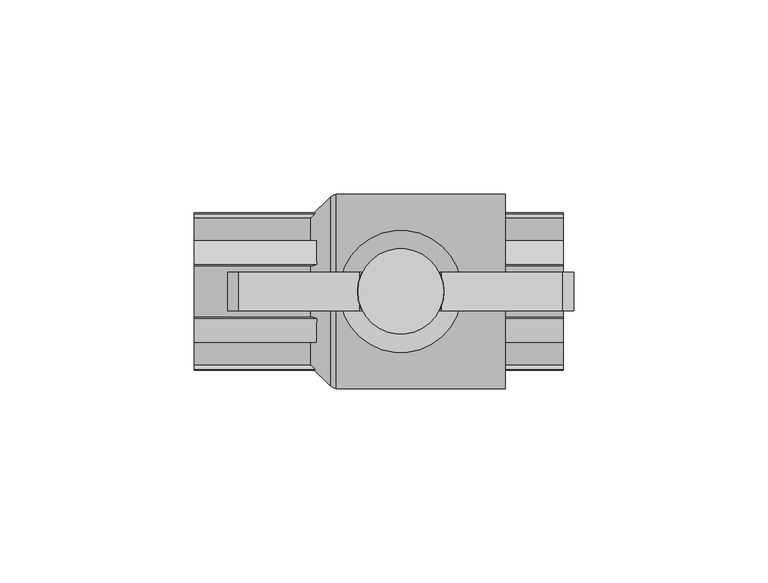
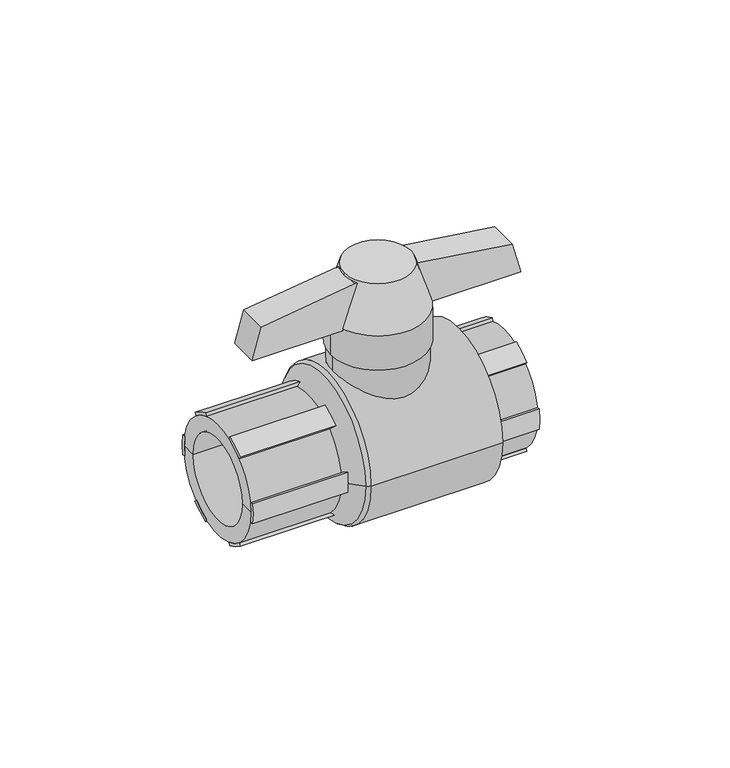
"""IFC4 building model written with IfcOpenShell, lengths in millimetres: valve geometry, Valvula Bola_Lubrizol_CPVC_FlowGuard_MX 25mm : Valvula Bola_Lubrizol_CPVC_FlowGuard_MX 25mm."""

import ifcopenshell
import ifcopenshell.guid

model = None  # the IFC model being written
_history = None  # IfcOwnerHistory: only IFC2X3 demands one
_inside = {}  # id of a spatial element -> (the spatial element, [elements in it])
_under = {}  # id of a project, library or spatial element -> (it, [spatial elements below it])
_declared = {}  # id of a project -> (the project, [libraries it declares])
_typed = {}  # id of a type object -> (the type object, [elements of that type])
_made_of = {}  # id of a material, layer set ... -> (it, [elements and type objects made of it])


def new_model(schema):
    """Start an empty IFC model of exactly this schema.

    Asked for "IFC4X3", IfcOpenShell would pick the latest addendum, in which some entities
    have other attributes; the version numbers below select the first issue.
    IFC2X3 requires an IfcOwnerHistory on every rooted entity: one is made here for all.
    """
    global model, _history
    if schema == "IFC4X3":
        model = ifcopenshell.file(schema_version=(4, 3, 0, 0))
    else:
        model = ifcopenshell.file(schema=schema)
    _inside.clear()
    _under.clear()
    _declared.clear()
    _typed.clear()
    _made_of.clear()
    _history = None
    if model.schema == "IFC2X3":
        org = make("IfcOrganization", Name="unknown")
        user = make(
            "IfcPersonAndOrganization",
            ThePerson=make("IfcPerson", FamilyName="unknown"),
            TheOrganization=org,
        )
        app = make(
            "IfcApplication",
            ApplicationDeveloper=org,
            Version="unknown",
            ApplicationFullName="unknown",
            ApplicationIdentifier="unknown",
        )
        _history = make(
            "IfcOwnerHistory",
            OwningUser=user,
            OwningApplication=app,
            ChangeAction="ADDED",
            CreationDate=0,
        )
    return model


def make(cls, **values):
    """One entity of the class cls with the attributes given. An attribute that is None is left unset."""
    return model.create_entity(
        cls, **{name: value for name, value in values.items() if value is not None}
    )


def rooted(cls, **values):
    """An entity with a GlobalId (a new one), such as an element, a storey or a relation."""
    return make(cls, GlobalId=ifcopenshell.guid.new(), OwnerHistory=_history, **values)


def si_unit(unit_type, name, prefix=None):
    """IfcSIUnit, for example si_unit("LENGTHUNIT", "METRE", prefix="MILLI")."""
    return make("IfcSIUnit", UnitType=unit_type, Prefix=prefix, Name=name)


def assignment(units):
    """IfcUnitAssignment: the units of a project."""
    return None if units is None else make("IfcUnitAssignment", Units=units)


def point(xyz):
    """IfcCartesianPoint."""
    return None if xyz is None else make("IfcCartesianPoint", Coordinates=xyz)


def direction(xyz):
    """IfcDirection."""
    return None if xyz is None else make("IfcDirection", DirectionRatios=xyz)


def frame(location, z_axis=None, x_axis=None):
    """IfcAxis2Placement3D, a coordinate frame: its origin and axes. An axis left out is left unset."""
    return make(
        "IfcAxis2Placement3D",
        Location=point(location),
        Axis=direction(z_axis),
        RefDirection=direction(x_axis),
    )


def frame_2d(location, x_axis=None):
    """IfcAxis2Placement2D, a coordinate frame in the plane: its origin and x axis."""
    return make(
        "IfcAxis2Placement2D", Location=point(location), RefDirection=direction(x_axis)
    )


def origin():
    """The frame at (0, 0, 0) with its axes left unset."""
    return frame((0.0, 0.0, 0.0))


def origin_2d():
    """The frame at (0, 0) in the plane with its x axis left unset."""
    return frame_2d((0.0, 0.0))


def place(relative_to, where):
    """IfcLocalPlacement: puts the frame where relative to a parent placement (None: the world)."""
    return make(
        "IfcLocalPlacement", PlacementRelTo=relative_to, RelativePlacement=where
    )


def context(
    kind, dimensions, precision=None, world=None, true_north=None, identifier=None
):
    """IfcGeometricRepresentationContext, for example the 3D "Model" context."""
    return make(
        "IfcGeometricRepresentationContext",
        ContextIdentifier=identifier,
        ContextType=kind,
        CoordinateSpaceDimension=dimensions,
        Precision=precision,
        WorldCoordinateSystem=world,
        TrueNorth=true_north,
    )


def project(units=None, contexts=None):
    """IfcProject with its units and contexts."""
    return rooted(
        "IfcProject",
        Name="project",
        RepresentationContexts=contexts,
        UnitsInContext=assignment(units),
    )


def spatial(cls, under=None, at=None, **own):
    """A site, building, storey or space (cls), placed at a placement, below another one or the project."""
    s = rooted(cls, ObjectPlacement=at, **own)
    if under is not None:
        _under.setdefault(under.id(), (under, []))[1].append(s)
    return s


def polyline(points):
    """IfcPolyline through the points."""
    return make("IfcPolyline", Points=[point(p) for p in points])


def circle_curve(where, radius):
    """IfcCircle in the frame where."""
    return make("IfcCircle", Position=where, Radius=radius)


def ellipse_curve(where, semi_axis1, semi_axis2):
    """IfcEllipse in the frame where."""
    return make(
        "IfcEllipse", Position=where, SemiAxis1=semi_axis1, SemiAxis2=semi_axis2
    )


def trimmed(basis, trim1, trim2, sense, master):
    """IfcTrimmedCurve: the piece of a basis curve between two trims."""
    return make(
        "IfcTrimmedCurve",
        BasisCurve=basis,
        Trim1=trim1,
        Trim2=trim2,
        SenseAgreement=sense,
        MasterRepresentation=master,
    )


def segment(curve, same_sense, transition):
    """IfcCompositeCurveSegment."""
    return make(
        "IfcCompositeCurveSegment",
        Transition=transition,
        SameSense=same_sense,
        ParentCurve=curve,
    )


def composite_curve(segments, self_intersect=None):
    """IfcCompositeCurve: segments joined end to end."""
    return make("IfcCompositeCurve", Segments=segments, SelfIntersect=self_intersect)


def outline(outer, holes=None, kind="AREA"):
    """IfcArbitraryClosedProfileDef: a profile drawn as a closed curve; with holes, ...WithVoids."""
    if holes is None:
        return make("IfcArbitraryClosedProfileDef", ProfileType=kind, OuterCurve=outer)
    return make(
        "IfcArbitraryProfileDefWithVoids",
        ProfileType=kind,
        OuterCurve=outer,
        InnerCurves=holes,
    )


def extrude(swept, where, along, depth):
    """IfcExtrudedAreaSolid: the profile swept, set in the frame where, extruded along a direction by depth."""
    return make(
        "IfcExtrudedAreaSolid",
        SweptArea=swept,
        Position=where,
        ExtrudedDirection=direction(along),
        Depth=depth,
    )


def shape(context_of_items, identifier, shape_type, items):
    """IfcShapeRepresentation: the items that make up one representation, for example the "Body"."""
    return make(
        "IfcShapeRepresentation",
        ContextOfItems=context_of_items,
        RepresentationIdentifier=identifier,
        RepresentationType=shape_type,
        Items=items,
    )


def source(mapping_origin, context_of_items, identifier, shape_type, items):
    """IfcRepresentationMap: a shape defined once, which mapped items show again and again."""
    return make(
        "IfcRepresentationMap",
        MappingOrigin=mapping_origin,
        MappedRepresentation=shape(context_of_items, identifier, shape_type, items),
    )


def transform(
    local_origin,
    x_axis=None,
    y_axis=None,
    z_axis=None,
    scale=None,
    scale2=None,
    scale3=None,
    uniform=True,
):
    """IfcCartesianTransformationOperator3D, or its non-uniform kind. x_axis, y_axis, z_axis: its Axis1, 2, 3."""
    if uniform:
        return make(
            "IfcCartesianTransformationOperator3D",
            Axis1=direction(x_axis),
            Axis2=direction(y_axis),
            LocalOrigin=point(local_origin),
            Scale=scale,
            Axis3=direction(z_axis),
        )
    return make(
        "IfcCartesianTransformationOperator3DnonUniform",
        Axis1=direction(x_axis),
        Axis2=direction(y_axis),
        LocalOrigin=point(local_origin),
        Scale=scale,
        Axis3=direction(z_axis),
        Scale2=scale2,
        Scale3=scale3,
    )


def mapped(mapping_source, mapping_target):
    """IfcMappedItem: shows the shape of a source again, moved by a transform."""
    return make(
        "IfcMappedItem", MappingSource=mapping_source, MappingTarget=mapping_target
    )


def made_of(thing, what):
    """Note that an element or type object is made of a material, layer set ...; save() writes the relation."""
    if what is not None:
        _made_of.setdefault(what.id(), (what, []))[1].append(thing)
    return thing


def element(
    cls,
    number,
    at=None,
    inside=None,
    cuts=None,
    type_object=None,
    material=None,
    context=None,
    identifier="Body",
    shape_type=None,
    held_by="IfcProductDefinitionShape",
    body=None,
    shapes=None,
    **own,
):
    """One element of the class cls, such as IfcWall. Its Tag is "e" and its number.

    at: its placement. inside: the storey or other place that contains it. cuts: it is an
    opening in that element (IfcRelVoidsElement). A single representation is given by context,
    identifier, shape_type and body (its items); several are given by shapes. held_by: the class
    of the entity that holds the representations. save() writes the other relations.
    """
    e = rooted(cls, Tag="e%d" % number, ObjectPlacement=at, **own)
    if body is not None:
        shapes = [shape(context, identifier, shape_type, body)]
    if shapes is not None:
        e.Representation = make(held_by, Representations=shapes)
    if inside is not None:
        _inside.setdefault(inside.id(), (inside, []))[1].append(e)
    if cuts is not None:
        rooted(
            "IfcRelVoidsElement", RelatingBuildingElement=cuts, RelatedOpeningElement=e
        )
    if type_object is not None:
        _typed.setdefault(type_object.id(), (type_object, []))[1].append(e)
    return made_of(e, material)


def aggregate(whole, parts):
    """IfcRelAggregates: a whole, such as a stair, and the parts it consists of."""
    return rooted("IfcRelAggregates", RelatingObject=whole, RelatedObjects=parts)


def save(model, path):
    """Write the relations noted so far, then the file.

    IfcRelAggregates (storeys below a building ...), IfcRelContainedInSpatialStructure (elements
    in a storey), IfcRelDefinesByType, IfcRelAssociatesMaterial and IfcRelDeclares: one each for
    every whole, place, type object, material and project.
    """
    for whole, parts in _under.values():
        aggregate(whole, parts)
    for where, things in _inside.values():
        rooted(
            "IfcRelContainedInSpatialStructure",
            RelatedElements=things,
            RelatingStructure=where,
        )
    for kind, things in _typed.values():
        rooted("IfcRelDefinesByType", RelatedObjects=things, RelatingType=kind)
    for what, things in _made_of.values():
        rooted("IfcRelAssociatesMaterial", RelatedObjects=things, RelatingMaterial=what)
    for by, libraries in _declared.values():
        rooted("IfcRelDeclares", RelatingContext=by, RelatedDefinitions=libraries)
    model.write(path)


def plane_surface(at):
    """IfcPlane: the flat surface through the origin of the frame at, square to its z axis."""
    return make("IfcPlane", Position=at)


def cylinder_surface(at, radius):
    """IfcCylindricalSurface: all points at the distance radius from the z axis of the frame at."""
    return make("IfcCylindricalSurface", Position=at, Radius=radius)


def revolved_surface(curve, axis_point, axis_direction):
    """IfcSurfaceOfRevolution: the curve turned about the line through axis_point along axis_direction."""
    return make(
        "IfcSurfaceOfRevolution",
        SweptCurve=make("IfcArbitraryOpenProfileDef", ProfileType="CURVE", Curve=curve),
        AxisPosition=make("IfcAxis1Placement", Location=point(axis_point), Axis=direction(axis_direction)),
    )


def advanced_brep(points, edges, surfaces, faces):
    """IfcAdvancedBrep: a solid bounded by faces that lie on surfaces and meet in shared edges.

    An edge is (start, end): straight between two places in points (the first is 0);
    or (start, end, curve); or (start, end, curve, False) where it runs against its curve.
    A face is (place in surfaces, loops), or (place, loops, False) where it looks against
    its surface's normal. A loop lists edges by number (the first is 1), with a minus sign
    where the edge is run from its end to its start. The first loop is the outer one.
    """
    corners = [point(p) for p in points]
    vertices = [make("IfcVertexPoint", VertexGeometry=c) for c in corners]
    made = []
    for start, end, *more in edges:
        made.append(
            make(
                "IfcEdgeCurve",
                EdgeStart=vertices[start],
                EdgeEnd=vertices[end],
                EdgeGeometry=more[0] if more else make("IfcPolyline", Points=[corners[start], corners[end]]),
                SameSense=more[1] if len(more) > 1 else True,
            )
        )
    hull = []
    for where, loops, *sense in faces:
        bounds = []
        for j, loop in enumerate(loops):
            ring = [make("IfcOrientedEdge", EdgeElement=made[abs(k) - 1], Orientation=k > 0) for k in loop]
            bounds.append(
                make(
                    "IfcFaceOuterBound" if j == 0 else "IfcFaceBound",
                    Bound=make("IfcEdgeLoop", EdgeList=ring),
                    Orientation=True,
                )
            )
        hull.append(make("IfcAdvancedFace", Bounds=bounds, FaceSurface=surfaces[where], SameSense=sense[0] if sense else True))
    return make("IfcAdvancedBrep", Outer=make("IfcClosedShell", CfsFaces=hull))


def valve_c067d7a9(model_context):
    return source(origin(), model_context, "Body", "SolidModel", [
        extrude(outline(composite_curve([segment(trimmed(circle_curve(frame_2d((0.194493, -0.4558227)), 20.8), [point((-13.0648531, 15.5700857))], [point((-6.9447631, 19.0805798))], False, "CARTESIAN"), True, "CONTINUOUS"), segment(polyline([(-6.9447631, 19.0805798), (-6.6009888, 18.1360676)]), True, "CONTINUOUS"), segment(trimmed(circle_curve(origin_2d(), 19.3), [point((-6.6009888, 18.1360676))], [point((-12.4058009, 14.7846578))], True, "CARTESIAN"), True, "CONTINUOUS"), segment(polyline([(-12.4058009, 14.7846578), (-13.0648531, 15.5700857)]), True, "CONTINUOUS")], self_intersect=False)), frame((35.0, 0.0, 0.0), z_axis=(1.0, 0.0, 0.0), x_axis=(0.0, 1.0, 0.0)), (0.0, 0.0, 1.0), 25.0),
        extrude(outline(composite_curve([segment(polyline([(19.9372223, -3.5154702), (19.0067896, -3.3514098)]), True, "CONTINUOUS"), segment(trimmed(circle_curve(origin_2d(), 19.3), [point((19.0067896, -3.3514098))], [point((19.0067896, 3.3514098))], True, "CARTESIAN"), True, "CONTINUOUS"), segment(polyline([(19.0067896, 3.3514098), (20.0094109, 3.528199)]), True, "CONTINUOUS"), segment(trimmed(circle_curve(frame_2d((-0.5252503, 0.2164485)), 20.8), [point((20.0094109, 3.528199))], [point((19.9372223, -3.5154702))], False, "CARTESIAN"), True, "CONTINUOUS")], self_intersect=False)), frame((35.0, 0.0, 0.0), z_axis=(1.0, 0.0, 0.0), x_axis=(0.0, 1.0, 0.0)), (0.0, 0.0, 1.0), 25.0),
        extrude(outline(composite_curve([segment(polyline([(-13.0582715, -15.562242), (-12.4058009, -14.7846578)]), True, "CONTINUOUS"), segment(trimmed(circle_curve(origin_2d(), 19.3), [point((-12.4058009, -14.7846578))], [point((-6.6009888, -18.1360676))], True, "CARTESIAN"), True, "CONTINUOUS"), segment(polyline([(-6.6009888, -18.1360676), (-6.9275433, -19.0332688)]), True, "CONTINUOUS"), segment(trimmed(circle_curve(frame_2d((0.1069044, 0.5411162)), 20.8), [point((-6.9275433, -19.0332688))], [point((-13.0582715, -15.562242))], False, "CARTESIAN"), True, "CONTINUOUS")], self_intersect=False)), frame((35.0, 0.0, 0.0), z_axis=(1.0, 0.0, 0.0), x_axis=(0.0, 1.0, 0.0)), (0.0, 0.0, 1.0), 25.0),
        extrude(outline(composite_curve([segment(trimmed(circle_curve(frame_2d((-0.2701292, 0.4470748)), 20.8), [point((13.03813, -15.5382383))], [point((6.938649, -19.0637816))], False, "CARTESIAN"), True, "CONTINUOUS"), segment(polyline([(6.938649, -19.0637816), (6.6009888, -18.1360676)]), True, "CONTINUOUS"), segment(trimmed(circle_curve(origin_2d(), 19.3), [point((6.6009888, -18.1360676))], [point((12.4058009, -14.7846578))], True, "CARTESIAN"), True, "CONTINUOUS"), segment(polyline([(12.4058009, -14.7846578), (13.03813, -15.5382383)]), True, "CONTINUOUS")], self_intersect=False)), frame((35.0, 0.0, 0.0), z_axis=(1.0, 0.0, 0.0), x_axis=(0.0, 1.0, 0.0)), (0.0, 0.0, 1.0), 25.0),
        extrude(outline(composite_curve([segment(polyline([(13.0196773, 15.5162472), (12.4058009, 14.7846578)]), True, "CONTINUOUS"), segment(trimmed(circle_curve(origin_2d(), 19.3), [point((12.4058009, 14.7846578))], [point((6.6009888, 18.1360676))], True, "CARTESIAN"), True, "CONTINUOUS"), segment(polyline([(6.6009888, 18.1360676), (6.9448049, 19.0806947)]), True, "CONTINUOUS"), segment(trimmed(circle_curve(frame_2d((-0.3920372, -0.3823664)), 20.8), [point((6.9448049, 19.0806947))], [point((13.0196773, 15.5162472))], False, "CARTESIAN"), True, "CONTINUOUS")], self_intersect=False)), frame((35.0, 0.0, 0.0), z_axis=(1.0, 0.0, 0.0), x_axis=(0.0, 1.0, 0.0)), (0.0, 0.0, 1.0), 25.0),
        extrude(outline(composite_curve([segment(trimmed(circle_curve(frame_2d((0.5108172, -0.0585031)), 20.8), [point((-19.9980848, -3.5262019))], [point((-19.9785595, 3.5227591))], False, "CARTESIAN"), True, "CONTINUOUS"), segment(polyline([(-19.9785595, 3.5227591), (-19.0067896, 3.3514098)]), True, "CONTINUOUS"), segment(trimmed(circle_curve(origin_2d(), 19.3), [point((-19.0067896, 3.3514098))], [point((-19.0067896, -3.3514098))], True, "CARTESIAN"), True, "CONTINUOUS"), segment(polyline([(-19.0067896, -3.3514098), (-19.9980848, -3.5262019)]), True, "CONTINUOUS")], self_intersect=False)), frame((35.0, 0.0, 0.0), z_axis=(1.0, 0.0, 0.0), x_axis=(0.0, 1.0, 0.0)), (0.0, 0.0, 1.0), 25.0),
        extrude(outline(composite_curve([segment(trimmed(circle_curve(frame_2d((0.194493, -0.4558227)), 20.8), [point((-13.0648531, 15.5700857))], [point((-6.9447631, 19.0805798))], False, "CARTESIAN"), True, "CONTINUOUS"), segment(polyline([(-6.9447631, 19.0805798), (-6.6009888, 18.1360676)]), True, "CONTINUOUS"), segment(trimmed(circle_curve(origin_2d(), 19.3), [point((-6.6009888, 18.1360676))], [point((-12.4058009, 14.7846578))], True, "CARTESIAN"), True, "CONTINUOUS"), segment(polyline([(-12.4058009, 14.7846578), (-13.0648531, 15.5700857)]), True, "CONTINUOUS")], self_intersect=False)), frame((-35.0, 0.0, 0.0), z_axis=(1.0, 0.0, 0.0), x_axis=(0.0, 1.0, 0.0)), (0.0, 0.0, 1.0), 36.5127117),
        extrude(outline(composite_curve([segment(polyline([(19.9372223, -3.5154702), (19.0067896, -3.3514098)]), True, "CONTINUOUS"), segment(trimmed(circle_curve(origin_2d(), 19.3), [point((19.0067896, -3.3514098))], [point((19.0067896, 3.3514098))], True, "CARTESIAN"), True, "CONTINUOUS"), segment(polyline([(19.0067896, 3.3514098), (20.0094109, 3.528199)]), True, "CONTINUOUS"), segment(trimmed(circle_curve(frame_2d((-0.5252503, 0.2164485)), 20.8), [point((20.0094109, 3.528199))], [point((19.9372223, -3.5154702))], False, "CARTESIAN"), True, "CONTINUOUS")], self_intersect=False)), frame((-35.0, 0.0, 0.0), z_axis=(1.0, 0.0, 0.0), x_axis=(0.0, 1.0, 0.0)), (0.0, 0.0, 1.0), 36.5127117),
        extrude(outline(composite_curve([segment(polyline([(-13.0582715, -15.562242), (-12.4058009, -14.7846578)]), True, "CONTINUOUS"), segment(trimmed(circle_curve(origin_2d(), 19.3), [point((-12.4058009, -14.7846578))], [point((-6.6009888, -18.1360676))], True, "CARTESIAN"), True, "CONTINUOUS"), segment(polyline([(-6.6009888, -18.1360676), (-6.9275433, -19.0332688)]), True, "CONTINUOUS"), segment(trimmed(circle_curve(frame_2d((0.1069044, 0.5411162)), 20.8), [point((-6.9275433, -19.0332688))], [point((-13.0582715, -15.562242))], False, "CARTESIAN"), True, "CONTINUOUS")], self_intersect=False)), frame((-35.0, 0.0, 0.0), z_axis=(1.0, 0.0, 0.0), x_axis=(0.0, 1.0, 0.0)), (0.0, 0.0, 1.0), 36.5127117),
        extrude(outline(composite_curve([segment(trimmed(circle_curve(frame_2d((-0.2701292, 0.4470748)), 20.8), [point((13.03813, -15.5382383))], [point((6.938649, -19.0637816))], False, "CARTESIAN"), True, "CONTINUOUS"), segment(polyline([(6.938649, -19.0637816), (6.6009888, -18.1360676)]), True, "CONTINUOUS"), segment(trimmed(circle_curve(origin_2d(), 19.3), [point((6.6009888, -18.1360676))], [point((12.4058009, -14.7846578))], True, "CARTESIAN"), True, "CONTINUOUS"), segment(polyline([(12.4058009, -14.7846578), (13.03813, -15.5382383)]), True, "CONTINUOUS")], self_intersect=False)), frame((-35.0, 0.0, 0.0), z_axis=(1.0, 0.0, 0.0), x_axis=(0.0, 1.0, 0.0)), (0.0, 0.0, 1.0), 36.5127117),
        extrude(outline(composite_curve([segment(polyline([(13.0196773, 15.5162472), (12.4058009, 14.7846578)]), True, "CONTINUOUS"), segment(trimmed(circle_curve(origin_2d(), 19.3), [point((12.4058009, 14.7846578))], [point((6.6009888, 18.1360676))], True, "CARTESIAN"), True, "CONTINUOUS"), segment(polyline([(6.6009888, 18.1360676), (6.9448049, 19.0806947)]), True, "CONTINUOUS"), segment(trimmed(circle_curve(frame_2d((-0.3920372, -0.3823664)), 20.8), [point((6.9448049, 19.0806947))], [point((13.0196773, 15.5162472))], False, "CARTESIAN"), True, "CONTINUOUS")], self_intersect=False)), frame((-35.0, 0.0, 0.0), z_axis=(1.0, 0.0, 0.0), x_axis=(0.0, 1.0, 0.0)), (0.0, 0.0, 1.0), 36.5127117),
        extrude(outline(composite_curve([segment(trimmed(circle_curve(frame_2d((0.5108172, -0.0585031)), 20.8), [point((-19.9980848, -3.5262019))], [point((-19.9785595, 3.5227591))], False, "CARTESIAN"), True, "CONTINUOUS"), segment(polyline([(-19.9785595, 3.5227591), (-19.0067896, 3.3514098)]), True, "CONTINUOUS"), segment(trimmed(circle_curve(origin_2d(), 19.3), [point((-19.0067896, 3.3514098))], [point((-19.0067896, -3.3514098))], True, "CARTESIAN"), True, "CONTINUOUS"), segment(polyline([(-19.0067896, -3.3514098), (-19.9980848, -3.5262019)]), True, "CONTINUOUS")], self_intersect=False)), frame((-35.0, 0.0, 0.0), z_axis=(1.0, 0.0, 0.0), x_axis=(0.0, 1.0, 0.0)), (0.0, 0.0, 1.0), 36.5127117),
        extrude(outline(polyline([(41.6194234, -26.3749423), (41.6194234, 62.6249423), (52.3168705, 59.75857), (56.6194234, 28.6250577), (56.6194234, 7.6249423), (52.3168705, -23.50857), (41.6194234, -26.3749423)])), frame((0.0, -5.0, 0.0), z_axis=(0.0, 1.0, 0.0), x_axis=(0.0, 0.0, 1.0)), (0.0, 0.0, 1.0), 10.0),
        advanced_brep(
        [(7.125, 0.0, 57.6194234), (29.125, 0.0, 57.6194234), (2.4156705, 0.0, 42.6194234), (33.8343295, 0.0, 42.6194234)],
        [
            (0, 1, circle_curve(frame((18.125, 0.0, 57.6194234), z_axis=(0.0, 0.0, 1.0), x_axis=(-1.0, 0.0, 0.0)), 11.0)),
            (1, 0, circle_curve(frame((18.125, 0.0, 57.6194234), z_axis=(0.0, 0.0, 1.0), x_axis=(1.0, 0.0, 0.0)), 11.0)),
            (2, 3, circle_curve(frame((18.125, 0.0, 42.6194234), z_axis=(0.0, 0.0, -1.0), x_axis=(1.0, 0.0, 0.0)), 15.7093295)),
            (3, 2, circle_curve(frame((18.125, 0.0, 42.6194234), z_axis=(0.0, 0.0, -1.0), x_axis=(-1.0, 0.0, 0.0)), 15.7093295)),
            (3, 1),
            (0, 2),
        ],
        [
            plane_surface(frame((18.125, 0.0, 57.6194234), z_axis=(0.0, 0.0, 1.0), x_axis=(0.0, -1.0, 0.0))),
            plane_surface(frame((18.125, 0.0, 42.6194234), z_axis=(0.0, 0.0, -1.0), x_axis=(0.0, -1.0, 0.0))),
            revolved_surface(polyline([(7.125000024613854, 0.0, 57.6194234), (2.415670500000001, 0.0, 42.6194234)]), (18.125, 0.0, 92.656258), (0.0, 0.0, -1.0)),
            revolved_surface(polyline([(29.124999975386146, 0.0, 57.6194234), (33.8343295, 0.0, 42.6194234)]), (18.125, 0.0, 92.656258), (0.0, 0.0, -1.0)),
        ],
        [
            (0, [[1, 2]]),
            (1, [[3, 4]]),
            (2, [[-4, 5, -1, 6]]),
            (3, [[-3, -6, -2, -5]]),
        ],
    ),
        extrude(outline(composite_curve([segment(trimmed(circle_curve(frame_2d((18.125, 0.0)), 15.7093295), [point((2.4156705, 0.0))], [point((33.8343295, 0.0))], False, "CARTESIAN"), True, "CONTINUOUS"), segment(trimmed(circle_curve(frame_2d((18.125, 0.0)), 15.7093295), [point((33.8343295, 0.0))], [point((2.4156705, 0.0))], False, "CARTESIAN"), True, "CONTINUOUS")], self_intersect=False)), frame((0.0, 0.0, 30.6194234), z_axis=(0.0, 0.0, 1.0), x_axis=(1.0, 0.0, 0.0)), (0.0, 0.0, 1.0), 12.0),
        extrude(outline(composite_curve([segment(trimmed(circle_curve(frame_2d((18.125, 0.0)), 15.0), [point((3.125, 0.0))], [point((33.125, 0.0))], False, "CARTESIAN"), True, "CONTINUOUS"), segment(trimmed(circle_curve(frame_2d((18.125, 0.0)), 15.0), [point((33.125, 0.0))], [point((3.125, 0.0))], False, "CARTESIAN"), True, "CONTINUOUS")], self_intersect=False)), frame((0.0, 0.0, -18.1360676), z_axis=(0.0, 0.0, 1.0), x_axis=(1.0, 0.0, 0.0)), (0.0, 0.0, 1.0), 48.755491),
        advanced_brep(
        [(35.0, -14.3, 0.0), (35.0, 14.3, 0.0), (35.0, 0.0, 0.0), (60.0, -14.3, 0.0), (60.0, 14.3, 0.0), (60.0, -19.3, 0.0), (60.0, 19.3, 0.0), (45.0, -19.3, 0.0), (45.0, 19.3, 0.0), (45.0, -25.0, 0.0), (45.0, 25.0, 0.0), (1.5127117, -25.0, 0.0), (1.5127117, 25.0, 0.0), (-5.0, -19.3, 0.0), (-5.0, 19.3, 0.0), (0.0, 24.3, 0.0), (0.0, -24.3, 0.0), (-35.0, -19.3, 0.0), (-35.0, 19.3, 0.0), (-35.0, -14.3, 0.0), (-35.0, 14.3, 0.0), (10.0, -14.3, 0.0), (10.0, 14.3, 0.0), (10.0, 0.0, 0.0)],
        [
            (0, 1, circle_curve(frame((35.0, 0.0, 0.0), z_axis=(1.0, 0.0, 0.0), x_axis=(0.0, 1.0, 0.0)), 14.3)),
            (1, 2),
            (2, 0),
            (1, 0, circle_curve(frame((35.0, 0.0, 0.0), z_axis=(1.0, 0.0, 0.0), x_axis=(0.0, 1.0, 0.0)), 14.3)),
            (3, 4, circle_curve(frame((60.0, 0.0, 0.0), z_axis=(1.0, 0.0, 0.0), x_axis=(0.0, 1.0, 0.0)), 14.3)),
            (4, 1),
            (0, 3),
            (4, 3, circle_curve(frame((60.0, 0.0, 0.0), z_axis=(1.0, 0.0, 0.0), x_axis=(0.0, 1.0, 0.0)), 14.3)),
            (5, 6, circle_curve(frame((60.0, 0.0, 0.0), z_axis=(1.0, 0.0, 0.0), x_axis=(0.0, 1.0, 0.0)), 19.3)),
            (6, 4),
            (3, 5),
            (6, 5, circle_curve(frame((60.0, 0.0, 0.0), z_axis=(1.0, 0.0, 0.0), x_axis=(0.0, 1.0, 0.0)), 19.3)),
            (7, 8, circle_curve(frame((45.0, 0.0, 0.0), z_axis=(1.0, 0.0, 0.0), x_axis=(0.0, 1.0, 0.0)), 19.3)),
            (8, 6),
            (5, 7),
            (8, 7, circle_curve(frame((45.0, 0.0, 0.0), z_axis=(1.0, 0.0, 0.0), x_axis=(0.0, 1.0, 0.0)), 19.3)),
            (9, 10, circle_curve(frame((45.0, 0.0, 0.0), z_axis=(1.0, 0.0, 0.0), x_axis=(0.0, 1.0, 0.0)), 25.0)),
            (10, 8),
            (7, 9),
            (10, 9, circle_curve(frame((45.0, 0.0, 0.0), z_axis=(1.0, 0.0, 0.0), x_axis=(0.0, 1.0, 0.0)), 25.0)),
            (11, 12, circle_curve(frame((1.5127117, 0.0, 0.0), z_axis=(1.0, 0.0, 0.0), x_axis=(0.0, 1.0, 0.0)), 25.0)),
            (12, 10),
            (9, 11),
            (12, 11, circle_curve(frame((1.5127117, 0.0, 0.0), z_axis=(1.0, 0.0, 0.0), x_axis=(0.0, 1.0, 0.0)), 25.0)),
            (13, 14, circle_curve(frame((-5.0, 0.0, 0.0), z_axis=(1.0, 0.0, 0.0), x_axis=(0.0, 1.0, 0.0)), 19.3)),
            (14, 15),
            (15, 16, circle_curve(frame((0.0, 0.0, 0.0), z_axis=(-1.0, 0.0, 0.0), x_axis=(0.0, 1.0, 0.0)), 24.3)),
            (16, 13),
            (14, 13, circle_curve(frame((-5.0, 0.0, 0.0), z_axis=(1.0, 0.0, 0.0), x_axis=(0.0, 1.0, 0.0)), 19.3)),
            (16, 15, circle_curve(frame((0.0, 0.0, 0.0), z_axis=(-1.0, 0.0, 0.0), x_axis=(0.0, 1.0, 0.0)), 24.3)),
            (17, 18, circle_curve(frame((-35.0, 0.0, 0.0), z_axis=(1.0, 0.0, 0.0), x_axis=(0.0, 1.0, 0.0)), 19.3)),
            (18, 14),
            (13, 17),
            (18, 17, circle_curve(frame((-35.0, 0.0, 0.0), z_axis=(1.0, 0.0, 0.0), x_axis=(0.0, 1.0, 0.0)), 19.3)),
            (19, 20, circle_curve(frame((-35.0, 0.0, 0.0), z_axis=(1.0, 0.0, 0.0), x_axis=(0.0, 1.0, 0.0)), 14.3)),
            (20, 18),
            (17, 19),
            (20, 19, circle_curve(frame((-35.0, 0.0, 0.0), z_axis=(1.0, 0.0, 0.0), x_axis=(0.0, 1.0, 0.0)), 14.3)),
            (21, 22, circle_curve(frame((10.0, 0.0, 0.0), z_axis=(1.0, 0.0, 0.0), x_axis=(0.0, 1.0, 0.0)), 14.3)),
            (22, 20),
            (19, 21),
            (22, 21, circle_curve(frame((10.0, 0.0, 0.0), z_axis=(1.0, 0.0, 0.0), x_axis=(0.0, 1.0, 0.0)), 14.3)),
            (23, 22),
            (21, 23),
            (15, 12, circle_curve(frame((1.7092757, 22.5907243, 0.0), z_axis=(0.0, 0.0, -1.0), x_axis=(1.0, 0.0, 0.0)), 2.4172808)),
            (11, 16, circle_curve(frame((1.7092757, -22.5907243, 0.0), z_axis=(0.0, 0.0, -1.0), x_axis=(1.0, 0.0, 0.0)), 2.4172808)),
        ],
        [
            plane_surface(frame((35.0, 0.0, 0.0), z_axis=(1.0, 0.0, 0.0), x_axis=(0.0, 1.0, 0.0))),
            revolved_surface(polyline([(35.0, 14.3, 0.0), (60.0, 14.3, 0.0)]), (-38.5589691, 0.0, 0.0), (-1.0, 0.0, 0.0)),
            plane_surface(frame((60.0, 0.0, 0.0), z_axis=(1.0, 0.0, 0.0), x_axis=(0.0, 1.0, 0.0))),
            cylinder_surface(frame((-38.5589691, 0.0, 0.0), z_axis=(-1.0, 0.0, 0.0), x_axis=(0.0, 1.0, 0.0)), 19.3),
            plane_surface(frame((45.0, 0.0, 0.0), z_axis=(1.0, 0.0, 0.0), x_axis=(0.0, 1.0, 0.0))),
            cylinder_surface(frame((-38.5589691, 0.0, 0.0), z_axis=(-1.0, 0.0, 0.0), x_axis=(0.0, 1.0, 0.0)), 25.0),
            revolved_surface(polyline([(0.0, 24.3, 0.0), (-5.0, 19.3, 0.0)]), (-38.5589691, 0.0, 0.0), (-1.0, 0.0, 0.0)),
            plane_surface(frame((-35.0, 0.0, 0.0), z_axis=(-1.0, 0.0, 0.0), x_axis=(0.0, 1.0, 0.0))),
            revolved_surface(polyline([(-35.0, 14.3, 0.0), (10.0, 14.3, 0.0)]), (-38.5589691, 0.0, 0.0), (-1.0, 0.0, 0.0)),
            plane_surface(frame((10.0, 0.0, 0.0), z_axis=(-1.0, 0.0, 0.0), x_axis=(0.0, 1.0, 0.0))),
            revolved_surface(trimmed(ellipse_curve(frame((1.7092757, 22.5907243, 0.0), z_axis=(0.0, 0.0, 1.0), x_axis=(1.0, 0.0, 0.0)), 2.4172808, 2.4172808), [point((1.5127117, 25.0, 0.0))], [point((0.0, 24.3, 0.0))], True, "CARTESIAN"), (-38.5589691, 0.0, 0.0), (-1.0, 0.0, 0.0)),
        ],
        [
            (0, [[1, 2, 3]]),
            (0, [[4, -3, -2]]),
            (1, [[5, 6, -1, 7]]),
            (1, [[8, -7, -4, -6]]),
            (2, [[9, 10, -5, 11]]),
            (2, [[12, -11, -8, -10]]),
            (3, [[13, 14, -9, 15]]),
            (3, [[16, -15, -12, -14]]),
            (4, [[17, 18, -13, 19]]),
            (4, [[20, -19, -16, -18]]),
            (5, [[21, 22, -17, 23]]),
            (5, [[24, -23, -20, -22]]),
            (6, [[25, 26, 27, 28]]),
            (6, [[29, -28, 30, -26]]),
            (3, [[31, 32, -25, 33]]),
            (3, [[34, -33, -29, -32]]),
            (7, [[35, 36, -31, 37]]),
            (7, [[38, -37, -34, -36]]),
            (8, [[39, 40, -35, 41]]),
            (8, [[42, -41, -38, -40]]),
            (9, [[43, -39, 44]]),
            (9, [[-44, -42, -43]]),
            (10, [[-27, 45, -21, 46]]),
            (10, [[-30, -46, -24, -45]]),
        ],
    ),
    ])


if __name__ == "__main__":
    model = new_model("IFC4")
    model_context = context("Model", 3, world=origin())
    ifc_project = project(units=[si_unit("LENGTHUNIT", "METRE", prefix="MILLI")], contexts=[model_context])
    site = spatial("IfcSite", under=ifc_project)
    building = spatial("IfcBuilding", under=site)
    placement = place(None, origin())
    valve_shape = valve_c067d7a9(model_context)
    element("IfcValve", 1, ObjectType="Valvula Bola_Lubrizol_CPVC_FlowGuard_MX 25mm : Valvula Bola_Lubrizol_CPVC_FlowGuard_MX 25mm", at=placement, inside=building, context=model_context, shape_type="MappedRepresentation", body=[
        mapped(valve_shape, transform((0.0, 0.0, 0.0), x_axis=(1.0, 0.0, 0.0), y_axis=(0.0, 1.0, 0.0), z_axis=(0.0, 0.0, 1.0))),
    ])
    save(model, "model.ifc")
